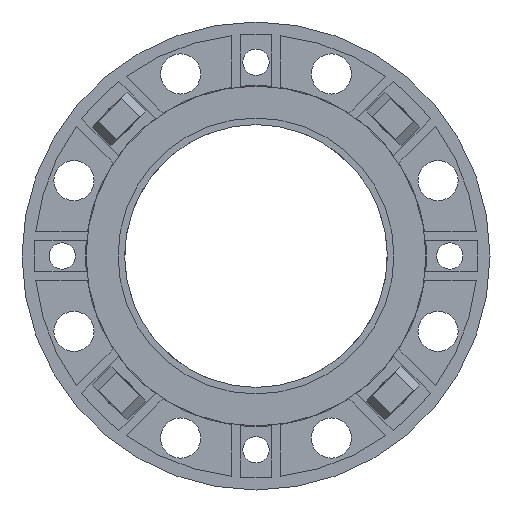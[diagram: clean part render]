
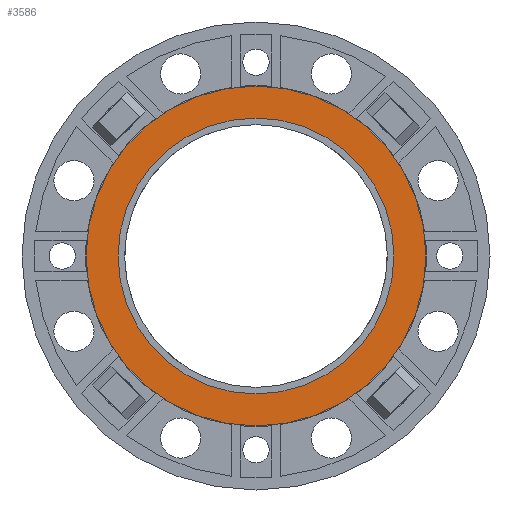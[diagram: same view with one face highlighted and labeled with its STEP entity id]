
A CAD part, front view. The second image highlights one B-rep face of the part: STEP entity #3586.
In plain terms, the highlighted planar face has unit normal (0, -1, 0).
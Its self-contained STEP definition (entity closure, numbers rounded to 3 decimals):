
#652 = CARTESIAN_POINT ( 'NONE',  ( 0., -3., -103.5 ) ) ;
#700 = CARTESIAN_POINT ( 'NONE',  ( 0., -3., 0. ) ) ;
#1075 = DIRECTION ( 'NONE',  ( 0., 0., 1. ) ) ;
#2458 = CARTESIAN_POINT ( 'NONE',  ( 0., -3., 0. ) ) ;
#3586 = ADVANCED_FACE ( 'Defeatured_0_186', ( #11962, #6653 ), #11887, .F. ) ;
#4212 = AXIS2_PLACEMENT_3D ( 'NONE', #2458, #7997, #5602 ) ;
#4227 = CIRCLE ( 'NONE', #5620, 103.5 ) ;
#4232 = CARTESIAN_POINT ( 'NONE',  ( 0., -3., -84. ) ) ;
#4469 = CIRCLE ( 'NONE', #12596, 103.5 ) ;
#5380 = DIRECTION ( 'NONE',  ( 0., 1., 0. ) ) ;
#5602 = DIRECTION ( 'NONE',  ( 0., 0., 1. ) ) ;
#5620 = AXIS2_PLACEMENT_3D ( 'NONE', #7574, #5380, #1075 ) ;
#6095 = CARTESIAN_POINT ( 'NONE',  ( 0., -3., 0. ) ) ;
#6412 = VERTEX_POINT ( 'NONE', #4232 ) ;
#6653 = FACE_OUTER_BOUND ( 'NONE', #8084, .T. ) ;
#6918 = ORIENTED_EDGE ( 'NONE', *, *, #8451, .F. ) ;
#7266 = AXIS2_PLACEMENT_3D ( 'NONE', #6095, #12930, #12781 ) ;
#7574 = CARTESIAN_POINT ( 'NONE',  ( 0., -3., 0. ) ) ;
#7976 = EDGE_CURVE ( 'Defeatured_0_187+Defeatured_0_186+Defeatured_0_186+Defeatured_0_186', #11296, #9293, #4227, .T. ) ;
#7997 = DIRECTION ( 'NONE',  ( 0., 1., 0. ) ) ;
#8084 = EDGE_LOOP ( 'NONE', ( #6918, #11249 ) ) ;
#8246 = EDGE_CURVE ( 'Defeatured_0_186+Defeatured_0_216+Defeatured_0_216+Defeatured_0_216', #6412, #9974, #13541, .T. ) ;
#8451 = EDGE_CURVE ( 'Defeatured_0_187+Defeatured_0_186+Defeatured_0_186+Defeatured_0_186', #9293, #11296, #4469, .T. ) ;
#8729 = ORIENTED_EDGE ( 'NONE', *, *, #8246, .T. ) ;
#8833 = DIRECTION ( 'NONE',  ( 0., 1., 0. ) ) ;
#9233 = DIRECTION ( 'NONE',  ( 0., 0., 1. ) ) ;
#9293 = VERTEX_POINT ( 'NONE', #652 ) ;
#9464 = EDGE_CURVE ( 'Defeatured_0_186+Defeatured_0_216+Defeatured_0_216+Defeatured_0_216', #9974, #6412, #10477, .T. ) ;
#9857 = DIRECTION ( 'NONE',  ( 0., 0., 1. ) ) ;
#9974 = VERTEX_POINT ( 'NONE', #13373 ) ;
#10477 = CIRCLE ( 'NONE', #4212, 84. ) ;
#10762 = ORIENTED_EDGE ( 'NONE', *, *, #9464, .T. ) ;
#10959 = CARTESIAN_POINT ( 'NONE',  ( 0., -3., 103.5 ) ) ;
#11087 = CARTESIAN_POINT ( 'NONE',  ( 0., -3., 0. ) ) ;
#11249 = ORIENTED_EDGE ( 'NONE', *, *, #7976, .F. ) ;
#11296 = VERTEX_POINT ( 'NONE', #10959 ) ;
#11556 = DIRECTION ( 'NONE',  ( 0., 1., 0. ) ) ;
#11887 = PLANE ( 'NONE',  #12471 ) ;
#11962 = FACE_BOUND ( 'NONE', #14219, .T. ) ;
#12471 = AXIS2_PLACEMENT_3D ( 'NONE', #11087, #8833, #9857 ) ;
#12596 = AXIS2_PLACEMENT_3D ( 'NONE', #700, #11556, #9233 ) ;
#12781 = DIRECTION ( 'NONE',  ( 0., 0., 1. ) ) ;
#12930 = DIRECTION ( 'NONE',  ( 0., 1., 0. ) ) ;
#13373 = CARTESIAN_POINT ( 'NONE',  ( 0., -3., 84. ) ) ;
#13541 = CIRCLE ( 'NONE', #7266, 84. ) ;
#14219 = EDGE_LOOP ( 'NONE', ( #8729, #10762 ) ) ;
